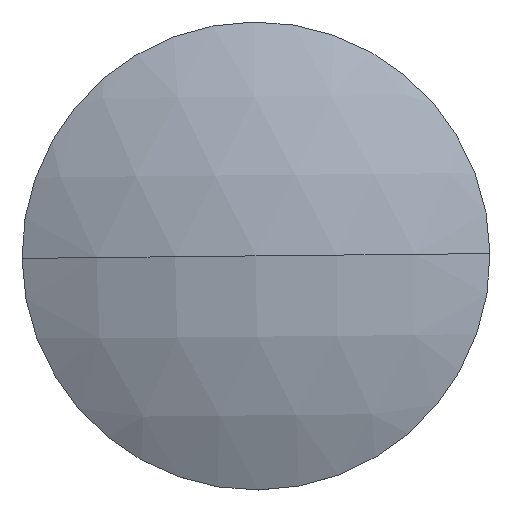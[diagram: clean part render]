
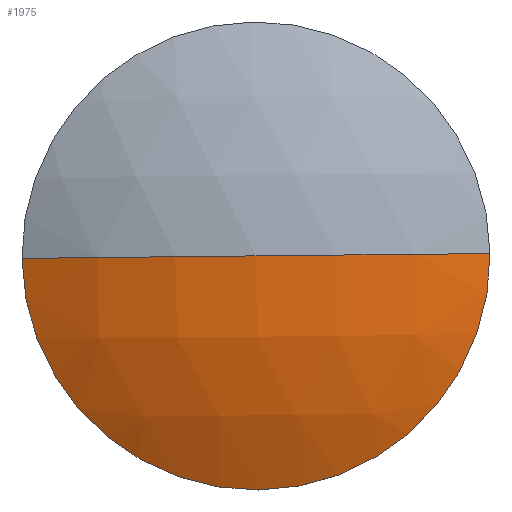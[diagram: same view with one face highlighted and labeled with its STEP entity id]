
A CAD part, top view. The second image highlights one B-rep face of the part: STEP entity #1975.
In plain terms, the highlighted spherical face has radius 70.016 mm.
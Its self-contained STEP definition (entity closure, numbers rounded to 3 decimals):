
#84 = CIRCLE ( 'NONE', #557, 32.5 ) ;
#241 = DIRECTION ( 'NONE',  ( 0., 1., 0. ) ) ;
#300 = SPHERICAL_SURFACE ( 'NONE', #2852, 70.016 ) ;
#557 = AXIS2_PLACEMENT_3D ( 'NONE', #1044, #1353, #2173 ) ;
#559 = VERTEX_POINT ( 'NONE', #1991 ) ;
#575 = ORIENTED_EDGE ( 'NONE', *, *, #900, .T. ) ;
#626 = ORIENTED_EDGE ( 'NONE', *, *, #2241, .F. ) ;
#900 = EDGE_CURVE ( 'NONE', #1243, #559, #1712, .T. ) ;
#954 = AXIS2_PLACEMENT_3D ( 'NONE', #3553, #1954, #1079 ) ;
#1044 = CARTESIAN_POINT ( 'NONE',  ( 0., 0., 1. ) ) ;
#1079 = DIRECTION ( 'NONE',  ( 0., 0., -1. ) ) ;
#1138 = EDGE_LOOP ( 'NONE', ( #626, #2550, #575 ) ) ;
#1189 = CIRCLE ( 'NONE', #2875, 70.016 ) ;
#1243 = VERTEX_POINT ( 'NONE', #2057 ) ;
#1278 = CARTESIAN_POINT ( 'NONE',  ( 0., 0., -61.016 ) ) ;
#1353 = DIRECTION ( 'NONE',  ( 0., 0., 1. ) ) ;
#1628 = DIRECTION ( 'NONE',  ( -1., 0., 0. ) ) ;
#1712 = CIRCLE ( 'NONE', #954, 70.016 ) ;
#1954 = DIRECTION ( 'NONE',  ( 0., -1., 0. ) ) ;
#1975 = ADVANCED_FACE ( 'NONE', ( #2505 ), #300, .T. ) ;
#1991 = CARTESIAN_POINT ( 'NONE',  ( 0., 0., 9. ) ) ;
#2016 = DIRECTION ( 'NONE',  ( 1., 0., 0. ) ) ;
#2057 = CARTESIAN_POINT ( 'NONE',  ( 32.5, 0., 1. ) ) ;
#2173 = DIRECTION ( 'NONE',  ( 1., 0., 0. ) ) ;
#2241 = EDGE_CURVE ( 'NONE', #3006, #559, #1189, .T. ) ;
#2264 = EDGE_CURVE ( 'NONE', #3006, #1243, #84, .T. ) ;
#2505 = FACE_OUTER_BOUND ( 'NONE', #1138, .T. ) ;
#2550 = ORIENTED_EDGE ( 'NONE', *, *, #2264, .T. ) ;
#2852 = AXIS2_PLACEMENT_3D ( 'NONE', #3082, #3047, #2016 ) ;
#2875 = AXIS2_PLACEMENT_3D ( 'NONE', #1278, #241, #1628 ) ;
#3006 = VERTEX_POINT ( 'NONE', #3351 ) ;
#3047 = DIRECTION ( 'NONE',  ( 0., 1., 0. ) ) ;
#3082 = CARTESIAN_POINT ( 'NONE',  ( 0., 0., -61.016 ) ) ;
#3351 = CARTESIAN_POINT ( 'NONE',  ( -32.5, 0., 1. ) ) ;
#3553 = CARTESIAN_POINT ( 'NONE',  ( 0., 0., -61.016 ) ) ;
